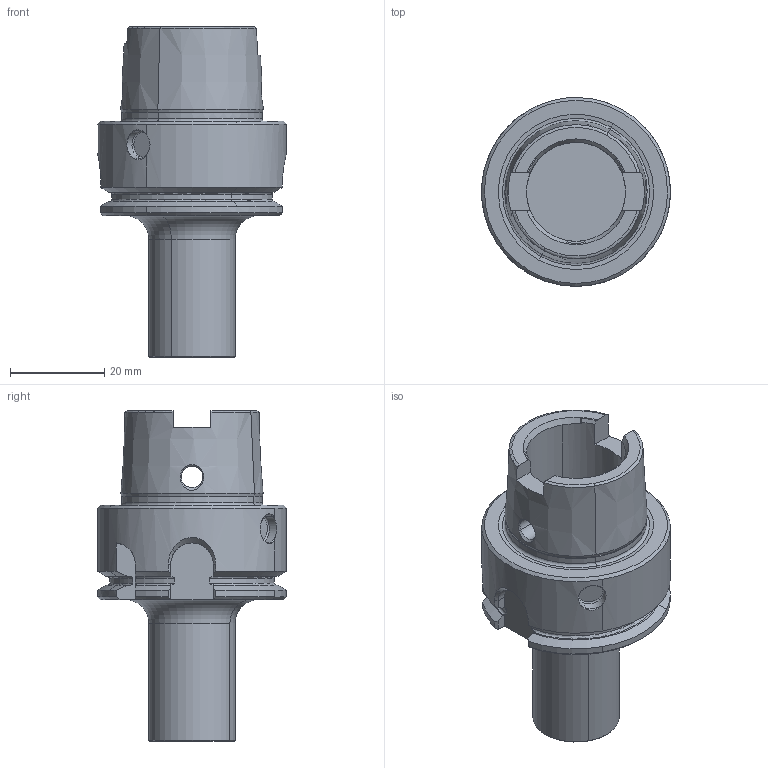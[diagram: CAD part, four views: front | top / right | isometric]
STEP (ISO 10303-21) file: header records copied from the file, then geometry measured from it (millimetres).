
FILE_DESCRIPTION(('CATIA V5 STEP','CAx-IF Rec.Pracs.--- Model Styling and Organization---1.2---2011-12-15'),'2;1');
FILE_NAME('N:\data\isr\design\special1\users\NATALY_B\Tal\NPA\3315511\MM S-A-H050-HSK A40-T12-L.stp','2017-03-12T13:56:24+00:00',('none'),('none'),'CATIA Version 5 Release 21 SP 5 (IN-10)','CATIA V5 STEP AP214','none');
FILE_SCHEMA(('AUTOMOTIVE_DESIGN { 1 0 10303 214 1 1 1 1 }'));
Length unit declared in the file: millimetre
Products named in the file (1): MM S-A-H050-HSK A40-T12
Bounding box: 40 x 40 x 70 mm (x, y, z)
Volume: 35253.5 mm3; surface area: 10483.1 mm2
Topology: 1 solids, 1 shells, 138 faces, 367 edges, 233 vertices
Faces by surface type: cone 43, plane 39, cylinder 27, torus 25, bspline 4
Entity records: 5214 total; most frequent: CARTESIAN_POINT 2035, ORIENTED_EDGE 734, DIRECTION 438, EDGE_CURVE 367, VERTEX_POINT 233, AXIS2_PLACEMENT_3D 224, EDGE_LOOP 144, ADVANCED_FACE 138
